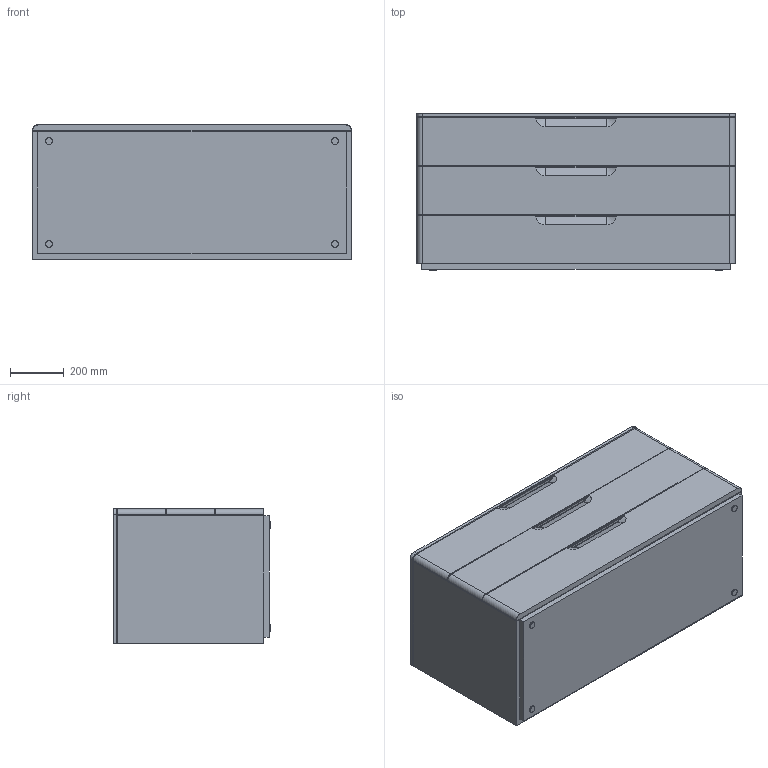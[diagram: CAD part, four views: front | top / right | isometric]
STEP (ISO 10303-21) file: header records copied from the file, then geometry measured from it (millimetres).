
FILE_DESCRIPTION (( 'STEP AP203' ), '1' );
FILE_NAME ('7070_Comò 3 cassetti con top legno.STEP', '2022-08-31T07:42:18', ( '' ), ( '' ), 'SwSTEP 2.0', 'SolidWorks 2021', '' );
FILE_SCHEMA (( 'CONFIG_CONTROL_DESIGN' ));
Length unit declared in the file: millimetre
Products named in the file (6): Top legno; FRONTALE L.1189 H.180; Comò 3 cassetti; FRONTALE+MANIGLIA L.1189; 7070_Comò 3 cassetti con top legno; UT164 - MANIGLIA - Step 03
Assembly tree (7 placements, depth 3):
  7070_Comò 3 cassetti con top legno
    Comò 3 cassetti
    FRONTALE+MANIGLIA L.1189  x3
      FRONTALE L.1189 H.180
      UT164 - MANIGLIA - Step 03
    Top legno
Bounding box: 1191 x 586.5 x 504 mm (x, y, z)
Volume: 343131062.6 mm3; surface area: 7867741 mm2
Topology: 12 solids, 12 shells, 337 faces, 852 edges, 562 vertices
Faces by surface type: plane 156, cylinder 73, bspline 72, cone 36
Entity records: 7180 total; most frequent: CARTESIAN_POINT 3402, ORIENTED_EDGE 672, DIRECTION 598, EDGE_CURVE 336, VERTEX_POINT 222, AXIS2_PLACEMENT_3D 212, LINE 174, VECTOR 174
